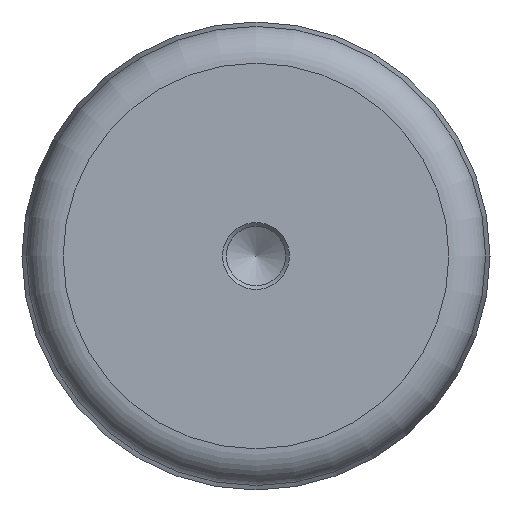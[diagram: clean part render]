
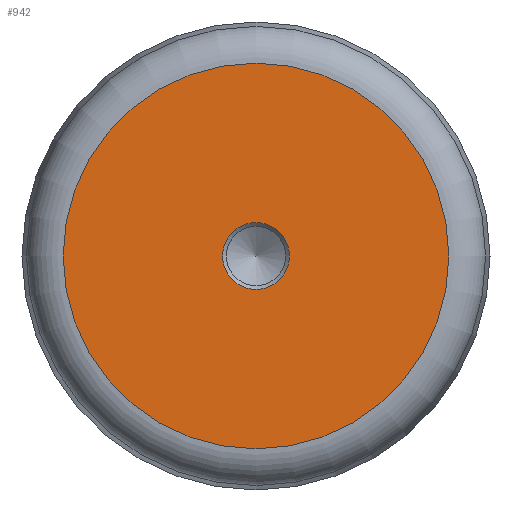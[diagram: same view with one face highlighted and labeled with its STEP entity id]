
A CAD part, left-side view. The second image highlights one B-rep face of the part: STEP entity #942.
In plain terms, the highlighted planar face has unit normal (-1, 0, 0).
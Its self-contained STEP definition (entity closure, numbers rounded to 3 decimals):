
#28=FACE_BOUND('',#149,.T.);
#35=PLANE('',#1035);
#87=FACE_OUTER_BOUND('',#148,.T.);
#148=EDGE_LOOP('',(#620));
#149=EDGE_LOOP('',(#621));
#319=CIRCLE('',#1027,4.5);
#324=CIRCLE('',#1034,25.959);
#387=VERTEX_POINT('',#1474);
#391=VERTEX_POINT('',#1486);
#470=EDGE_CURVE('',#387,#387,#319,.T.);
#477=EDGE_CURVE('',#391,#391,#324,.T.);
#620=ORIENTED_EDGE('',*,*,#477,.F.);
#621=ORIENTED_EDGE('',*,*,#470,.T.);
#942=ADVANCED_FACE('',(#87,#28),#35,.T.);
#1027=AXIS2_PLACEMENT_3D('',#1475,#1169,#1170);
#1034=AXIS2_PLACEMENT_3D('',#1488,#1185,#1186);
#1035=AXIS2_PLACEMENT_3D('',#1489,#1187,#1188);
#1169=DIRECTION('center_axis',(1.,0.,0.));
#1170=DIRECTION('ref_axis',(0.,0.,1.));
#1185=DIRECTION('center_axis',(1.,0.,0.));
#1186=DIRECTION('ref_axis',(0.,-1.,0.));
#1187=DIRECTION('center_axis',(-1.,0.,0.));
#1188=DIRECTION('ref_axis',(0.,0.,1.));
#1474=CARTESIAN_POINT('',(0.,0.,-4.5));
#1475=CARTESIAN_POINT('Origin',(0.,0.,0.));
#1486=CARTESIAN_POINT('',(0.,0.,25.959));
#1488=CARTESIAN_POINT('Origin',(0.,0.,0.));
#1489=CARTESIAN_POINT('Origin',(0.,30.305,0.));
